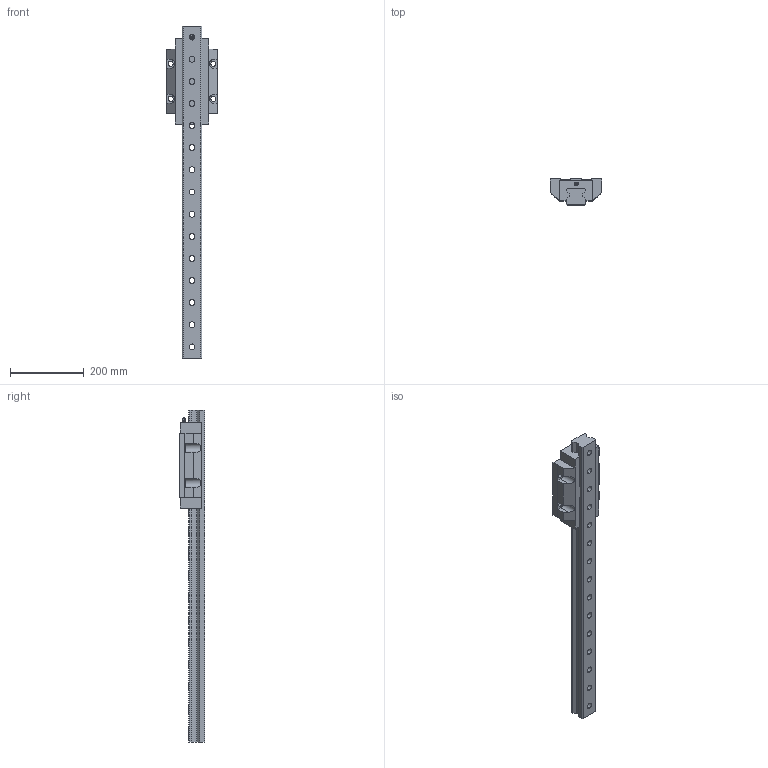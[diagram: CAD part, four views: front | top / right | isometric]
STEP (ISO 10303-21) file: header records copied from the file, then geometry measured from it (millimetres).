
FILE_DESCRIPTION(('STEP AP214'),'1');
FILE_NAME('D:/ModelConvertServices/Model.002/SVC.ACISConvertServices002/output/0545f3d6-4064-4588-a39c-52d6b245277c/1_RGW55HC1R900ZOH.step','2022-07-23T04:37:39',(' '),(' '),'Spatial InterOp 3D',' ',' ');
FILE_SCHEMA(('automotive_design'));
Length unit declared in the file: millimetre
Products named in the file (2): 1; 2
Bounding box: 140 x 70 x 900 mm (x, y, z)
Volume: 2875400.8 mm3; surface area: 341955.9 mm2
Topology: 2 solids, 2 shells, 296 faces, 751 edges, 488 vertices
Faces by surface type: plane 148, cylinder 116, cone 30, sphere 2
Entity records: 11444 total; most frequent: CARTESIAN_POINT 1695, DIRECTION 1565, ORIENTED_EDGE 1498, EDGE_CURVE 749, AXIS2_PLACEMENT_3D 566, VERTEX_POINT 488, LINE 433, VECTOR 433
